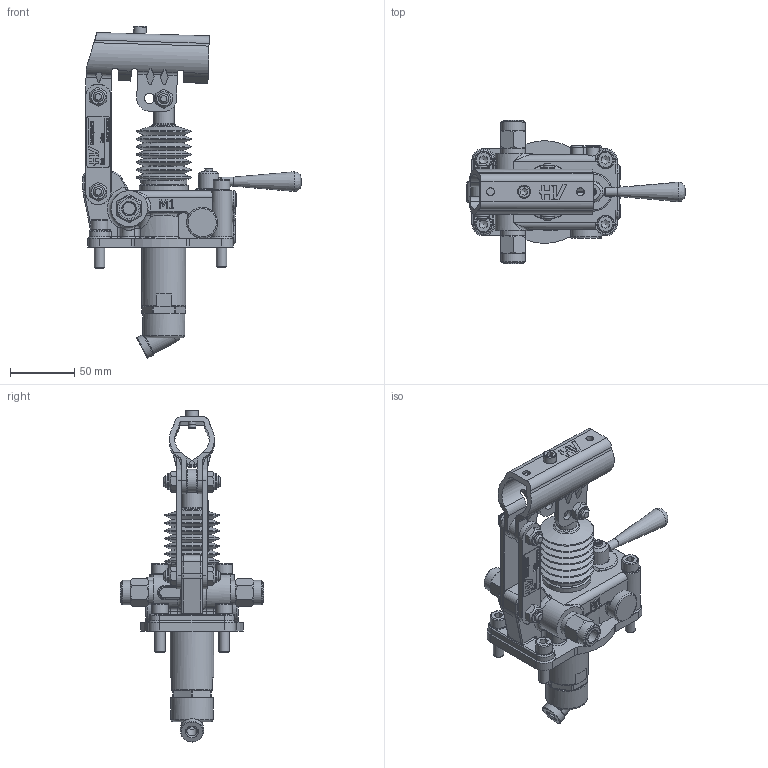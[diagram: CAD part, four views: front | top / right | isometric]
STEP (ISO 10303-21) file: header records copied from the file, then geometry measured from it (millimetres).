
FILE_DESCRIPTION((''),'2;1');
FILE_NAME('G:\HV_HYDRAULIC\AZIENDA_HV_HYDRAULIC\ARCHIVIO_DISEGNI\5_PRODOTTI_FINITI\1_POMPE_MANUALI\6059_PMDVB_6\6059.0303_PMDVB_6_ca-byB-s_(HV)\6059.0303.stp','2024-03-07T12:20:52',('christian.scardovi'),(''),'Autodesk Inventor 2013','Autodesk Inventor 2013','');
FILE_SCHEMA(('AUTOMOTIVE_DESIGN { 1 0 10303 214 1 1 1 1 }'));
Length unit declared in the file: millimetre
Products named in the file (1): 6059.0303
Bounding box: 170 x 112 x 258.54 mm (x, y, z)
Surface area: 137805.8 mm2
Topology: 2 solids, 3 shells, 1769 faces, 4489 edges, 2836 vertices
Faces by surface type: plane 826, cylinder 395, cone 211, bspline 185, torus 139, sphere 13
Full cylindrical faces by diameter (mm): 1.2 x4, 3 x8, 4 x4, 4.917 x13, 5 x11, 6 x8, 6.5 x3, 6.917 x2, 7 x3, 8 x15, 9 x4, 9.2 x1, 10 x14, 10.5 x2, 10.917 x3, 11.05 x6, 11.445 x2, 12 x7, 13 x4, 13.2 x1, 14 x4, 14.95 x2, 15 x2, 15.5 x2, 15.9 x2, 16 x4, 18 x5, 18.1 x1, 19 x4, 22 x1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
Entity records: 55286 total; most frequent: CARTESIAN_POINT 14906, ORIENTED_EDGE 7920, DIRECTION 7472, EDGE_CURVE 3960, AXIS2_PLACEMENT_3D 2729, VERTEX_POINT 2674, EDGE_LOOP 2281, VECTOR 2014
